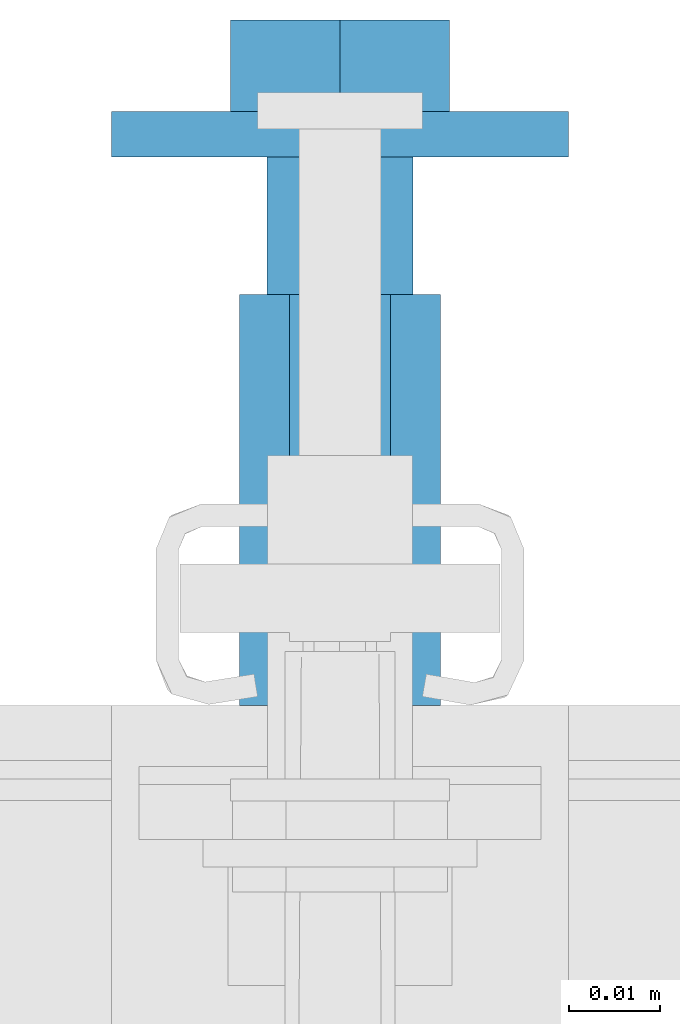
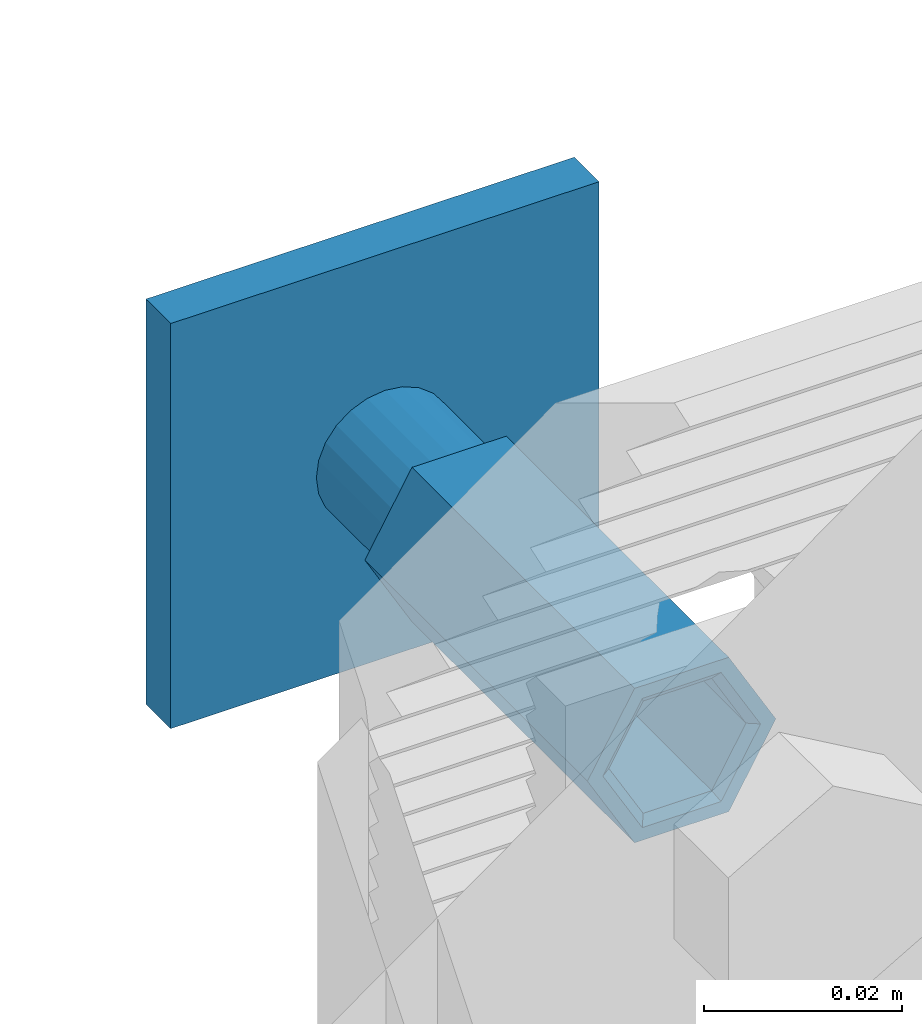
# One storey, part 4 of 7: 1 assembly.
"""IFC2X3 building model written with IfcOpenShell, lengths in metres."""

from ifc_helpers import new_model, entity, si_unit, converted_unit, derived_unit, direction, frame, origin, place, context, subcontext, project, spatial, faceted_brep, source, transform, mapped, material, type_object, type_shapes, element, save


model = new_model("IFC2X3")

# Units and contexts
model_context = context("Model", 3, precision=1e-05, world=origin(), true_north=direction((6.123031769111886e-17, 1.0)))
body_context = subcontext(model_context, "Body", "Model", "MODEL_VIEW")
ifc_project = project(units=[si_unit("LENGTHUNIT", "METRE"), si_unit("AREAUNIT", "SQUARE_METRE"), converted_unit("PLANEANGLEUNIT", "DEGREE", entity("IfcPlaneAngleMeasure", 0.017453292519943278), si_unit("PLANEANGLEUNIT", "RADIAN"), dimensions=[0, 0, 0, 0, 0, 0, 0]), si_unit("VOLUMEUNIT", "CUBIC_METRE"), derived_unit("THERMALTRANSMITTANCEUNIT", [(si_unit("MASSUNIT", "GRAM", prefix="KILO"), 1), (si_unit("THERMODYNAMICTEMPERATUREUNIT", "KELVIN"), -1), (si_unit("TIMEUNIT", "SECOND"), -3)]), derived_unit("USERDEFINED", [(si_unit("MASSUNIT", "GRAM", prefix="KILO"), 1), (si_unit("THERMODYNAMICTEMPERATUREUNIT", "KELVIN"), -1), (si_unit("TIMEUNIT", "SECOND"), -2)]), derived_unit("THERMALRESISTANCEUNIT", [(si_unit("MASSUNIT", "GRAM", prefix="KILO"), -1), (si_unit("TIMEUNIT", "SECOND"), 3), (si_unit("THERMODYNAMICTEMPERATUREUNIT", "KELVIN"), 1)]), derived_unit("MASSDENSITYUNIT", [(si_unit("MASSUNIT", "GRAM", prefix="KILO"), 1), (si_unit("LENGTHUNIT", "METRE"), -3)]), derived_unit("VAPORPERMEABILITYUNIT", [(si_unit("LENGTHUNIT", "METRE"), -1), (si_unit("TIMEUNIT", "SECOND"), 1)]), derived_unit("USERDEFINED", [(si_unit("MASSUNIT", "GRAM", prefix="KILO"), 1), (si_unit("TIMEUNIT", "SECOND"), -3), (si_unit("LENGTHUNIT", "METRE"), 3), (si_unit("ELECTRICCURRENTUNIT", "AMPERE"), -2)]), si_unit("PRESSUREUNIT", "PASCAL")], contexts=[model_context])

# Site, building, storey
site_placement = place(None, origin())
site = spatial("IfcSite", under=ifc_project, at=site_placement, Name="Default", CompositionType="ELEMENT")
building_placement = place(site_placement, origin())
building = spatial("IfcBuilding", under=site, at=building_placement, CompositionType="ELEMENT")
storey_placement = place(building_placement, origin())
storey = spatial("IfcBuildingStorey", under=building, at=storey_placement, Name="L0", CompositionType="ELEMENT", Elevation=0.0)

# Assembly
ifc_material = material(Name="REC_Acero, S 275JR (Zincado)")
type_product = type_object("IfcTypeProduct", Name="REC-HBP M16-75 EV:HBP M16-75 EV", material=ifc_material)
shared_shape = source(origin(), body_context, "Body", "Brep", [
    faceted_brep([(-0.005499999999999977, -0.009526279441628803, 0.0), (-0.009199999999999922, 0.0, 0.0), (-0.010999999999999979, 0.0, 0.0), (-0.004599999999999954, -0.007967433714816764, 0.0), (0.004599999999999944, -0.00796743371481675, 0.0), (0.0054999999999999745, -0.009526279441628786, 0.0), (0.00919999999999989, 0.0, 0.0), (0.010999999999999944, 0.0, 0.0), (0.005499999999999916, 0.009526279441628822, 0.0), (0.004599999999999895, 0.007967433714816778, 0.0), (-0.005500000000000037, 0.009526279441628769, 0.0), (-0.004600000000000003, 0.007967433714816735, 0.0), (0.007999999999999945, 0.0, -0.0008571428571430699), (0.0039999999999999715, -0.006928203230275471, -0.0008571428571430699), (-0.003999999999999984, -0.006928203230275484, -0.0008571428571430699), (-0.007999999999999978, 0.0, -0.0008571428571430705), (-0.004000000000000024, 0.006928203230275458, -0.0008571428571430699), (0.003999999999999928, 0.0069282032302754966, -0.0008571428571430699), (0.007999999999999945, 0.0, -0.04500000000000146), (0.003999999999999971, -0.0069282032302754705, -0.04500000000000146), (-0.003999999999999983, -0.006928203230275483, -0.04500000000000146), (-0.007999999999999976, 0.0, -0.04500000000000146), (-0.004000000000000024, 0.006928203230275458, -0.04500000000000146), (0.003999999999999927, 0.006928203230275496, -0.04500000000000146), (-0.010999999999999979, 0.0, -0.04500000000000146), (-0.005499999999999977, -0.009526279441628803, -0.04500000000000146), (-0.005500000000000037, 0.009526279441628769, -0.04500000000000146), (0.005499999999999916, 0.009526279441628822, -0.04500000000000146), (0.010999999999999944, 0.0, -0.04500000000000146), (0.0054999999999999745, -0.009526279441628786, -0.04500000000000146)], [[[0, 1, 2]], [[1, 0, 3]], [[4, 3, 0]], [[0, 5, 4]], [[6, 4, 5]], [[5, 7, 6]], [[8, 6, 7]], [[6, 8, 9]], [[10, 9, 8]], [[1, 11, 10]], [[9, 10, 11]], [[10, 2, 1]], [[12, 13, 4, 6]], [[13, 14, 3, 4]], [[14, 15, 1, 3]], [[15, 16, 11, 1]], [[16, 17, 9, 11]], [[17, 12, 6, 9]], [[18, 19, 13, 12]], [[19, 20, 14, 13]], [[20, 21, 15, 14]], [[21, 22, 16, 15]], [[22, 23, 17, 16]], [[23, 18, 12, 17]], [[24, 21, 25]], [[21, 24, 26]], [[26, 22, 21]], [[22, 26, 23]], [[27, 23, 26]], [[23, 27, 18]], [[28, 18, 27]], [[18, 28, 29]], [[19, 29, 25]], [[29, 19, 18]], [[20, 25, 21]], [[25, 20, 19]], [[7, 5, 29, 28]], [[5, 0, 25, 29]], [[0, 2, 24, 25]], [[2, 10, 26, 24]], [[10, 8, 27, 26]], [[8, 7, 28, 27]]]),
    faceted_brep([(0.003999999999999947, 0.00692820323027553, -0.022500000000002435), (0.0020705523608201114, 0.007727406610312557, -0.022500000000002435), (0.0, 0.008, -0.022500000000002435), (-0.002070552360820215, 0.0077274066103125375, -0.022500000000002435), (-0.0040000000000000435, 0.006928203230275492, -0.022500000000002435), (-0.0056568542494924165, 0.005656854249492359, -0.022500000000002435), (-0.006928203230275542, 0.003999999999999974, -0.022500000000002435), (-0.007727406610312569, 0.002070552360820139, -0.022500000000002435), (-0.008000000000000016, 0.0, -0.022500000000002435), (-0.007727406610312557, -0.0020705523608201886, -0.022500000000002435), (-0.006928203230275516, -0.004000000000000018, -0.022500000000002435), (-0.005656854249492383, -0.005656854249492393, -0.022500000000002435), (-0.0040000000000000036, -0.006928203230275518, -0.022500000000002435), (-0.0020705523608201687, -0.0077274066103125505, -0.022500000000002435), (0.0, -0.008, -0.022500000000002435), (0.00207055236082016, -0.007727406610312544, -0.022500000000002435), (0.0039999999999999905, -0.006928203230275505, -0.022500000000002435), (0.005656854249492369, -0.005656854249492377, -0.022500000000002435), (0.006928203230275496, -0.003999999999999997, -0.022500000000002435), (0.0077274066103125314, -0.002070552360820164, -0.022500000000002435), (0.007999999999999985, 0.0, -0.022500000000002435), (0.007727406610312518, 0.002070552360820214, -0.022500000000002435), (0.0069282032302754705, 0.004000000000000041, -0.022500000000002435), (0.005656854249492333, 0.005656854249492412, -0.022500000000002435), (0.0039999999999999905, -0.006928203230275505, -0.060000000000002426), (0.00207055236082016, -0.007727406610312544, -0.060000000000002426), (0.0, -0.008, -0.060000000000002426), (-0.0020705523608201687, -0.0077274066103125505, -0.060000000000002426), (-0.0040000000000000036, -0.006928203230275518, -0.060000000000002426), (-0.005656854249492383, -0.005656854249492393, -0.060000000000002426), (-0.006928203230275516, -0.004000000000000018, -0.060000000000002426), (-0.007727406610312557, -0.0020705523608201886, -0.060000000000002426), (-0.008000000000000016, 0.0, -0.060000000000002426), (-0.007727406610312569, 0.002070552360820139, -0.060000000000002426), (-0.006928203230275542, 0.003999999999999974, -0.060000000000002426), (-0.0056568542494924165, 0.005656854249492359, -0.060000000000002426), (-0.0040000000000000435, 0.006928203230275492, -0.060000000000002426), (-0.002070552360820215, 0.0077274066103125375, -0.060000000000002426), (0.0, 0.008, -0.060000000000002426), (0.0020705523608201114, 0.007727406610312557, -0.060000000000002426), (0.003999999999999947, 0.00692820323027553, -0.060000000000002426), (0.005656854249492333, 0.005656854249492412, -0.060000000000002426), (0.0069282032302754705, 0.004000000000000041, -0.060000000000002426), (0.007727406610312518, 0.002070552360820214, -0.060000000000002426), (0.007999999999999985, 0.0, -0.060000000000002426), (0.0077274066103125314, -0.002070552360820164, -0.060000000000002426), (0.006928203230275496, -0.003999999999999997, -0.060000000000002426), (0.005656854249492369, -0.005656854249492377, -0.060000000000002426)], [[[0, 1, 2, 3, 4, 5, 6, 7, 8, 9, 10, 11, 12, 13, 14, 15, 16, 17, 18, 19, 20, 21, 22, 23]], [[24, 25, 26, 27, 28, 29, 30, 31, 32, 33, 34, 35, 36, 37, 38, 39, 40, 41, 42, 43, 44, 45, 46, 47]], [[32, 8, 7, 33]], [[33, 7, 6, 34]], [[36, 35, 5, 4]], [[5, 35, 34, 6]], [[37, 36, 4, 3]], [[37, 3, 2, 38]], [[38, 2, 1, 39]], [[39, 1, 0, 40]], [[42, 41, 23, 22]], [[23, 41, 40, 0]], [[43, 42, 22, 21]], [[43, 21, 20, 44]], [[44, 20, 19, 45]], [[45, 19, 18, 46]], [[24, 47, 17, 16]], [[17, 47, 46, 18]], [[25, 24, 16, 15]], [[25, 15, 14, 26]], [[26, 14, 13, 27]], [[27, 13, 12, 28]], [[30, 29, 11, 10]], [[11, 29, 28, 12]], [[31, 30, 10, 9]], [[31, 9, 8, 32]]]),
    faceted_brep([(0.02499999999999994, -0.025000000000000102, -0.060000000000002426), (0.02499999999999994, 0.025000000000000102, -0.060000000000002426), (-0.024999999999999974, 0.025000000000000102, -0.060000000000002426), (-0.024999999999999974, -0.025000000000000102, -0.060000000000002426), (0.02499999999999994, -0.025000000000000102, -0.06500000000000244), (-0.024999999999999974, -0.025000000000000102, -0.06500000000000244), (-0.024999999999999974, 0.025000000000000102, -0.06500000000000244), (0.02499999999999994, 0.025000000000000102, -0.06500000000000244)], [[[0, 1, 2, 3]], [[4, 5, 6, 7]], [[3, 5, 4, 0]], [[2, 6, 5, 3]], [[1, 7, 6, 2]], [[0, 4, 7, 1]]]),
    faceted_brep([(-0.011999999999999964, -0.00692820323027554, -0.06500000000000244), (0.0, -0.01385640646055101, -0.06500000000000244), (0.011999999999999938, -0.00692820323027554, -0.06500000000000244), (0.011999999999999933, 0.00692820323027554, -0.06500000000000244), (0.0, 0.013856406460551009, -0.06500000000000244), (-0.011999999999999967, 0.00692820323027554, -0.06500000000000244), (-0.011999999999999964, -0.00692820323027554, -0.07500000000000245), (-0.011999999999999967, 0.006928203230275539, -0.07500000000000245), (0.0, 0.013856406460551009, -0.07500000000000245), (0.011999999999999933, 0.00692820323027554, -0.07500000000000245), (0.011999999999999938, -0.00692820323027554, -0.07500000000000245), (0.0, -0.01385640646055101, -0.07500000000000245)], [[[0, 1, 2, 3, 4, 5]], [[6, 7, 8, 9, 10, 11]], [[5, 7, 6, 0]], [[4, 8, 7, 5]], [[3, 9, 8, 4]], [[2, 10, 9, 3]], [[1, 11, 10, 2]], [[0, 6, 11, 1]]]),
])
type_shapes(type_product, [shared_shape])
assembly_placement = place(storey_placement, frame((7.287720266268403, 15.95453029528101, 0.07200000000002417), z_axis=(0.0, -1.0, 0.0), x_axis=(-1.0, 0.0, 0.0)))
element("IfcElementAssembly", 1, at=assembly_placement, inside=storey, type_object=type_product, material=ifc_material, Name="REC-HBP M16-75 EV:HBP M16-75 EV", ObjectType="REC-HBP M16-75 EV:HBP M16-75 EV", AssemblyPlace="NOTDEFINED", PredefinedType="NOTDEFINED", context=body_context, shape_type="MappedRepresentation", body=[
    mapped(shared_shape, transform((0.0, 0.0, 0.0), scale=1.0)),
])

save(model, "model.ifc")
